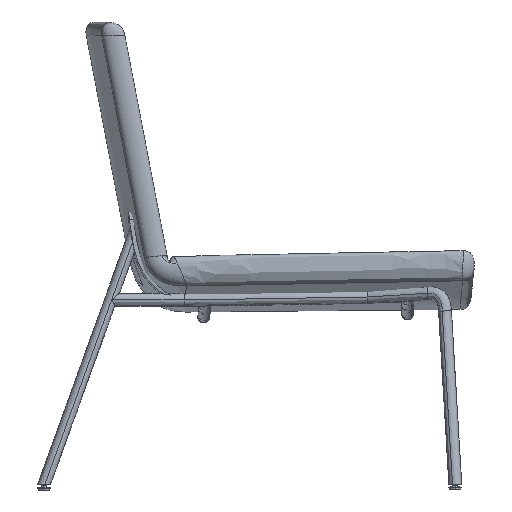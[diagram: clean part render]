
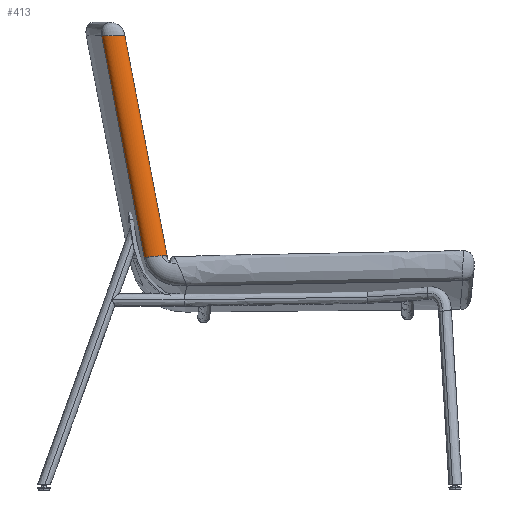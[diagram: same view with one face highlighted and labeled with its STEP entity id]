
A CAD part, left-side view. The second image highlights one B-rep face of the part: STEP entity #413.
In plain terms, the highlighted free-form (B-spline) face has degree [1, 5] with [2, 6] control points.
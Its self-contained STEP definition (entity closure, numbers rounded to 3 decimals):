
#413=ADVANCED_FACE('',(#645),#3356,.T.);
#645=FACE_OUTER_BOUND('',#877,.T.);
#877=EDGE_LOOP('',(#1732,#1733,#1734,#1735,#1736));
#1732=ORIENTED_EDGE('',*,*,#2300,.F.);
#1733=ORIENTED_EDGE('',*,*,#2303,.T.);
#1734=ORIENTED_EDGE('',*,*,#2288,.F.);
#1735=ORIENTED_EDGE('',*,*,#2301,.T.);
#1736=ORIENTED_EDGE('',*,*,#2302,.T.);
#2288=EDGE_CURVE('',#3143,#3144,#2794,.T.);
#2300=EDGE_CURVE('',#3152,#3153,#2806,.T.);
#2301=EDGE_CURVE('',#3143,#3154,#2807,.T.);
#2302=EDGE_CURVE('',#3154,#3153,#2808,.T.);
#2303=EDGE_CURVE('',#3152,#3144,#2809,.T.);
#2794=B_SPLINE_CURVE_WITH_KNOTS('',3,(#16569,#16570,#16571,#16572,#16573,
#16574,#16575,#16576,#16577,#16578,#16579,#16580,#16581,#16582,#16583,#16584,
#16585,#16586,#16587,#16588,#16589,#16590,#16591,#16592),.UNSPECIFIED.,
 .F.,.F.,(4,1,1,1,1,1,1,1,1,1,1,1,1,1,1,1,1,1,1,1,1,4),(-65.422,
-63.312,-61.201,-59.091,-56.981,
-54.87,-52.76,-50.649,-48.539,
-46.429,-44.318,-42.208,-40.097,
-37.987,-35.877,-33.766,-31.656,
-29.545,-27.435,-25.325,-23.214,
-21.104),.UNSPECIFIED.);
#2806=B_SPLINE_CURVE_WITH_KNOTS('',1,(#16757,#16758),.UNSPECIFIED.,.F.,
 .F.,(2,2),(-117.539,291.352),.UNSPECIFIED.);
#2807=B_SPLINE_CURVE_WITH_KNOTS('',1,(#16759,#16760),.UNSPECIFIED.,.F.,
 .F.,(2,2),(-117.539,291.352),.UNSPECIFIED.);
#2808=B_SPLINE_CURVE_WITH_KNOTS('',3,(#16761,#16762,#16763,#16764,#16765,
#16766,#16767,#16768,#16769,#16770,#16771,#16772,#16773,#16774,#16775,#16776,
#16777,#16778,#16779,#16780,#16781,#16782,#16783,#16784,#16785,#16786,#16787,
#16788,#16789,#16790,#16791,#16792,#16793,#16794,#16795),.UNSPECIFIED.,
 .F.,.F.,(4,2,2,2,2,2,2,1,1,1,2,2,2,2,2,2,2,2,4),(-62.05,-58.206,
-54.362,-50.517,-46.673,-42.829,
-38.984,-33.252,-31.296,-29.34,
-27.384,-23.472,-19.56,-15.648,
-11.736,-9.78,-7.824,-3.912,
0.),.UNSPECIFIED.);
#2809=B_SPLINE_CURVE_WITH_KNOTS('',3,(#16796,#16797,#16798,#16799,#16800,
#16801,#16802,#16803,#16804,#16805,#16806,#16807,#16808,#16809,#16810),
 .UNSPECIFIED.,.F.,.F.,(4,1,1,1,1,1,1,1,1,1,1,1,4),(0.,1.444,
2.889,4.333,5.778,7.222,8.666,
10.111,11.555,13.,14.444,15.888,
17.333),.UNSPECIFIED.);
#3143=VERTEX_POINT('',#16421);
#3144=VERTEX_POINT('',#16422);
#3152=VERTEX_POINT('',#16430);
#3153=VERTEX_POINT('',#16431);
#3154=VERTEX_POINT('',#16432);
#3356=B_SPLINE_SURFACE_WITH_KNOTS('',1,5,((#11284,#11285,#11286,#11287,
#11288,#11289),(#11290,#11291,#11292,#11293,#11294,#11295)),
 .UNSPECIFIED.,.F.,.F.,.F.,(2,2),(6,6),(-291.352,117.539),
(0.,57.507),.UNSPECIFIED.);
#11284=CARTESIAN_POINT('',(-991.089,586.372,775.733));
#11285=CARTESIAN_POINT('',(-1000.71,584.813,775.684));
#11286=CARTESIAN_POINT('',(-1010.322,583.2,775.647));
#11287=CARTESIAN_POINT('',(-1010.445,622.39,774.969));
#11288=CARTESIAN_POINT('',(-1000.833,624.002,775.007));
#11289=CARTESIAN_POINT('',(-991.213,625.561,775.055));
#11290=CARTESIAN_POINT('',(-991.081,513.639,397.063));
#11291=CARTESIAN_POINT('',(-1000.742,512.663,399.589));
#11292=CARTESIAN_POINT('',(-1010.396,511.635,402.126));
#11293=CARTESIAN_POINT('',(-1010.77,549.636,396.585));
#11294=CARTESIAN_POINT('',(-1000.991,551.26,396.48));
#11295=CARTESIAN_POINT('',(-991.204,552.829,396.385));
#16421=CARTESIAN_POINT('',(-991.204,552.829,396.385));
#16422=CARTESIAN_POINT('',(-1004.977,522.161,399.407));
#16430=CARTESIAN_POINT('',(-991.081,513.639,397.063));
#16431=CARTESIAN_POINT('',(-991.089,586.372,775.733));
#16432=CARTESIAN_POINT('',(-991.213,625.561,775.055));
#16569=CARTESIAN_POINT('',(-991.204,552.829,396.385));
#16570=CARTESIAN_POINT('',(-991.813,552.731,396.391));
#16571=CARTESIAN_POINT('',(-993.032,552.535,396.403));
#16572=CARTESIAN_POINT('',(-994.838,552.132,396.437));
#16573=CARTESIAN_POINT('',(-996.55,551.562,396.496));
#16574=CARTESIAN_POINT('',(-998.216,550.742,396.589));
#16575=CARTESIAN_POINT('',(-999.724,549.684,396.715));
#16576=CARTESIAN_POINT('',(-1001.059,548.412,396.87));
#16577=CARTESIAN_POINT('',(-1002.209,546.974,397.046));
#16578=CARTESIAN_POINT('',(-1003.182,545.412,397.235));
#16579=CARTESIAN_POINT('',(-1003.996,543.762,397.433));
#16580=CARTESIAN_POINT('',(-1004.667,542.054,397.634));
#16581=CARTESIAN_POINT('',(-1005.214,540.285,397.838));
#16582=CARTESIAN_POINT('',(-1005.64,538.506,398.038));
#16583=CARTESIAN_POINT('',(-1005.963,536.699,398.234));
#16584=CARTESIAN_POINT('',(-1006.185,534.878,398.424));
#16585=CARTESIAN_POINT('',(-1006.313,533.047,398.607));
#16586=CARTESIAN_POINT('',(-1006.347,531.212,398.78));
#16587=CARTESIAN_POINT('',(-1006.287,529.373,398.942));
#16588=CARTESIAN_POINT('',(-1006.131,527.55,399.089));
#16589=CARTESIAN_POINT('',(-1005.87,525.726,399.22));
#16590=CARTESIAN_POINT('',(-1005.498,523.928,399.329));
#16591=CARTESIAN_POINT('',(-1005.167,522.746,399.384));
#16592=CARTESIAN_POINT('',(-1004.977,522.161,399.407));
#16757=CARTESIAN_POINT('',(-991.081,513.639,397.063));
#16758=CARTESIAN_POINT('',(-991.089,586.372,775.733));
#16759=CARTESIAN_POINT('',(-991.204,552.829,396.385));
#16760=CARTESIAN_POINT('',(-991.213,625.561,775.055));
#16761=CARTESIAN_POINT('',(-991.213,625.561,775.055));
#16762=CARTESIAN_POINT('',(-992.432,625.365,775.049));
#16763=CARTESIAN_POINT('',(-993.655,625.159,775.043));
#16764=CARTESIAN_POINT('',(-996.032,624.473,775.037));
#16765=CARTESIAN_POINT('',(-997.182,623.987,775.037));
#16766=CARTESIAN_POINT('',(-999.273,622.664,775.044));
#16767=CARTESIAN_POINT('',(-1000.209,621.836,775.051));
#16768=CARTESIAN_POINT('',(-1001.821,619.96,775.072));
#16769=CARTESIAN_POINT('',(-1002.503,618.919,775.085));
#16770=CARTESIAN_POINT('',(-1003.656,616.732,775.114));
#16771=CARTESIAN_POINT('',(-1004.13,615.585,775.131));
#16772=CARTESIAN_POINT('',(-1004.915,613.24,775.166));
#16773=CARTESIAN_POINT('',(-1005.227,612.043,775.184));
#16774=CARTESIAN_POINT('',(-1005.836,609.017,775.232));
#16775=CARTESIAN_POINT('',(-1006.128,606.581,775.272));
#16776=CARTESIAN_POINT('',(-1006.192,603.41,775.326));
#16777=CARTESIAN_POINT('',(-1006.144,601.769,775.355));
#16778=CARTESIAN_POINT('',(-1006.061,600.619,775.375));
#16779=CARTESIAN_POINT('',(-1005.892,598.926,775.406));
#16780=CARTESIAN_POINT('',(-1005.724,597.8,775.427));
#16781=CARTESIAN_POINT('',(-1005.252,595.578,775.468));
#16782=CARTESIAN_POINT('',(-1004.95,594.48,775.489));
#16783=CARTESIAN_POINT('',(-1004.166,592.348,775.532));
#16784=CARTESIAN_POINT('',(-1003.685,591.311,775.553));
#16785=CARTESIAN_POINT('',(-1002.478,589.388,775.595));
#16786=CARTESIAN_POINT('',(-1001.745,588.5,775.616));
#16787=CARTESIAN_POINT('',(-1000.422,587.424,775.644));
#16788=CARTESIAN_POINT('',(-999.945,587.11,775.653));
#16789=CARTESIAN_POINT('',(-998.933,586.592,775.67));
#16790=CARTESIAN_POINT('',(-998.4,586.389,775.677));
#16791=CARTESIAN_POINT('',(-996.751,585.948,775.697));
#16792=CARTESIAN_POINT('',(-995.603,585.885,775.707));
#16793=CARTESIAN_POINT('',(-993.335,586.009,775.722));
#16794=CARTESIAN_POINT('',(-992.21,586.19,775.727));
#16795=CARTESIAN_POINT('',(-991.089,586.372,775.733));
#16796=CARTESIAN_POINT('',(-991.081,513.639,397.063));
#16797=CARTESIAN_POINT('',(-991.574,513.589,397.192));
#16798=CARTESIAN_POINT('',(-992.56,513.49,397.45));
#16799=CARTESIAN_POINT('',(-994.046,513.4,397.83));
#16800=CARTESIAN_POINT('',(-995.541,513.428,398.195));
#16801=CARTESIAN_POINT('',(-997.027,513.629,398.534));
#16802=CARTESIAN_POINT('',(-998.48,514.057,398.833));
#16803=CARTESIAN_POINT('',(-999.844,514.733,399.077));
#16804=CARTESIAN_POINT('',(-1001.076,515.642,399.26));
#16805=CARTESIAN_POINT('',(-1002.15,516.741,399.38));
#16806=CARTESIAN_POINT('',(-1003.063,517.978,399.446));
#16807=CARTESIAN_POINT('',(-1003.831,519.312,399.468));
#16808=CARTESIAN_POINT('',(-1004.469,520.711,399.454));
#16809=CARTESIAN_POINT('',(-1004.819,521.674,399.425));
#16810=CARTESIAN_POINT('',(-1004.977,522.161,399.407));
